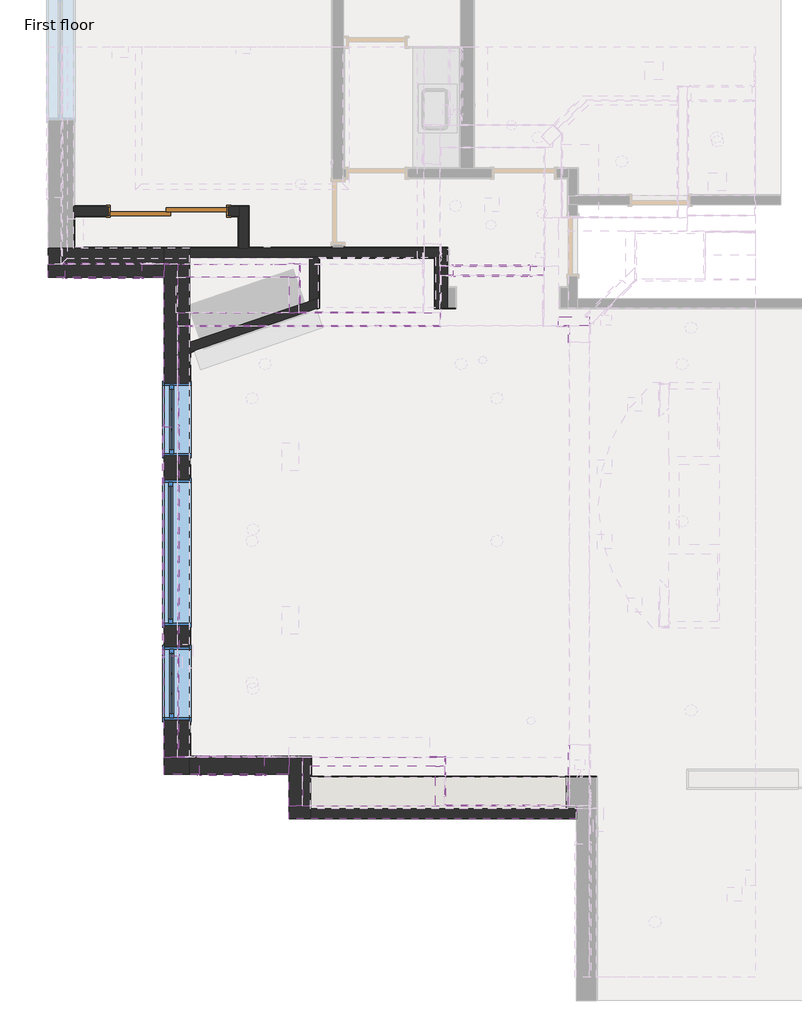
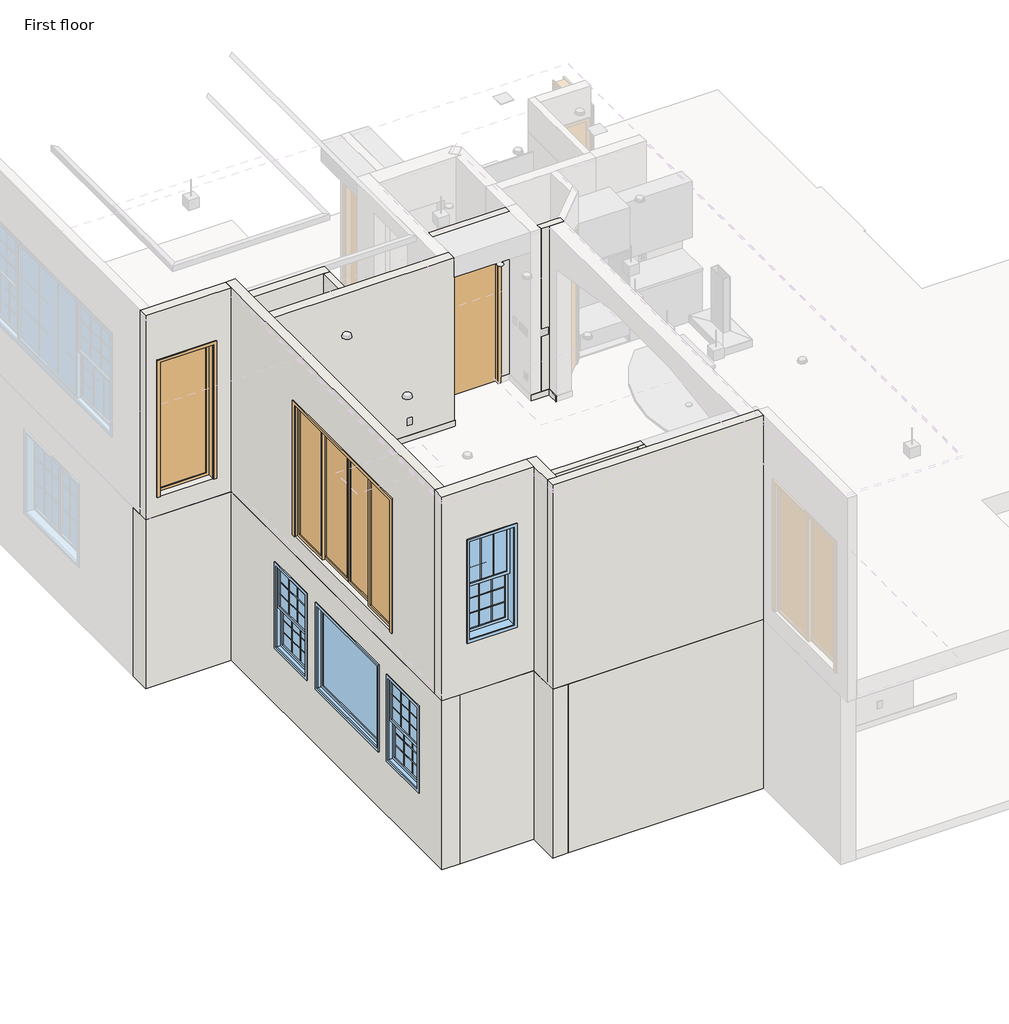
# One storey, part 1 of 14: 61 walls, 4 doors, 4 windows.
"""IFC4 building model written with IfcOpenShell, lengths in millimetres."""

from ifc_helpers import new_model, si_unit, frame, origin, origin_with_axes, place, context, project, spatial, polyline, outline, extrude, faceted_brep, transform, mapped, element, save
from components import door_a6e0097c, door_41e090a7, door_951bc8e4, door_b97ac930, window_a2dd4ec8, window_e6a79fe6, window_c5c9dc02

model = new_model("IFC4")

# Units and contexts
model_context = context("Model", 3, world=origin())
ifc_project = project(units=[si_unit("LENGTHUNIT", "METRE", prefix="MILLI")], contexts=[model_context])

# Site, building, storey
site = spatial("IfcSite", under=ifc_project)
building = spatial("IfcBuilding", under=site)
storey = spatial("IfcBuildingStorey", under=building, Name="First floor", Elevation=0.0)

# Doors
placement = place(None, origin())
door_shape = door_a6e0097c(model_context)
element("IfcDoor", 1, ObjectType="C_Single Door : 3'-0\" X 8'-0\"", at=placement, inside=storey, context=model_context, shape_type="MappedRepresentation", body=[
    mapped(door_shape, transform((-1066.8, 9544.05, 3251.2), x_axis=(-1.0, 0.0, 0.0), y_axis=(0.0, -1.0, 0.0), z_axis=(0.0, 0.0, 1.0))),
])
door_2_shape = door_41e090a7(model_context)
element("IfcDoor", 2, ObjectType="C_Single Door Glass : 3'-0\" X 8'-0\"", at=placement, inside=storey, context=model_context, shape_type="MappedRepresentation", body=[
    mapped(door_2_shape, transform((-5962.65, 9544.05, 3251.2), x_axis=(1.0, 0.0, 0.0), y_axis=(0.0, 1.0, 0.0), z_axis=(0.0, 0.0, 1.0))),
])
door_3_shape = door_951bc8e4(model_context)
element("IfcDoor", 3, ObjectType="C_Sliding Door Double : 4'-10\" X 8'-0\"", at=placement, inside=storey, context=model_context, shape_type="MappedRepresentation", body=[
    mapped(door_3_shape, transform((-5143.5, 10293.35, 0.0), x_axis=(1.0, 0.0, 0.0), y_axis=(0.0, 1.0, 0.0), z_axis=(0.0, 0.0, 1.0))),
])
door_4_shape = door_b97ac930(model_context)
element("IfcDoor", 4, ObjectType="Double Sliding Door : 9'-4\" X 7'-10\"", at=placement, inside=storey, context=model_context, shape_type="MappedRepresentation", body=[
    mapped(door_4_shape, transform((-5111.75, 6134.1, 3251.2), x_axis=(0.0, -1.0, 0.0), y_axis=(1.0, 0.0, 0.0), z_axis=(0.0, 0.0, 1.0))),
])

# Walls
element("IfcWall", 5, ObjectType="Wall Border_T1", at=placement, inside=storey, context=model_context, shape_type="Brep", body=[
    faceted_brep([(-3352.8000001, 3174.9999999, 0.0), (-3352.8000001, 3174.9999999, 101.6), (-3340.1000001, 3174.9999999, 101.6), (254.0000001, 3174.9999999, 101.6), (254.0000001, 3174.9999999, 0.0), (-3340.1000001, 3174.9999999, 0.0), (-3352.8000001, 3162.2999999, 101.6), (-3352.8000001, 3162.2999999, 0.0), (254.0000001, 3162.2999999, 0.0), (254.0000001, 3162.2999999, 101.6)], [[[0, 1, 2, 3, 4, 5]], [[6, 7, 8, 9]], [[7, 0, 5, 4, 8]], [[1, 0, 7, 6]], [[1, 6, 9, 3, 2]], [[4, 3, 9, 8]]]),
])
element("IfcWall", 6, ObjectType="Wall Border_T1", at=placement, inside=storey, context=model_context, shape_type="SweptSolid", body=[
    extrude(outline(polyline([(-3340.1000001, 3174.9999999), (-3352.8000001, 3174.9999999), (-3352.8000001, 3416.2999999), (-3340.1000001, 3416.2999999), (-3340.1000001, 3174.9999999)])), origin_with_axes(), (0.0, 0.0, 1.0), 101.6),
])
element("IfcWall", 7, ObjectType="Wall Border_T1", at=placement, inside=storey, context=model_context, shape_type="Brep", body=[
    faceted_brep([(-3340.1000001, 3428.9999999, 0.0), (-4864.1000001, 3428.9999999, 0.0), (-4864.1000001, 3428.9999999, 101.6), (-3340.1000001, 3428.9999999, 101.6), (-3340.1000001, 3416.2999999, 0.0), (-3340.1000001, 3416.2999999, 101.6), (-3352.8000001, 3416.2999999, 101.6), (-4864.1000001, 3416.2999999, 101.6), (-4864.1000001, 3416.2999999, 0.0), (-3352.8000001, 3416.2999999, 0.0)], [[[0, 1, 2, 3]], [[4, 5, 6, 7, 8, 9]], [[1, 0, 4, 9, 8]], [[2, 1, 8, 7]], [[3, 2, 7, 6, 5]], [[0, 3, 5, 4]]]),
])
element("IfcWall", 8, ObjectType="Wall Border_T1", at=placement, inside=storey, context=model_context, shape_type="SweptSolid", body=[
    extrude(outline(polyline([(-1790.7, 9702.8), (-3238.5, 9702.8), (-3238.5, 9715.5), (-1790.7, 9715.5), (-1790.7, 9702.8)])), origin_with_axes(), (0.0, 0.0, 1.0), 101.6),
])
element("IfcWall", 9, ObjectType="Wall Border_T1", at=placement, inside=storey, context=model_context, shape_type="Brep", body=[
    faceted_brep([(-1790.7, 9715.5, 0.0), (-1790.7, 9702.8, 0.0), (-1790.7, 9067.8, 0.0), (-1790.7, 9067.8, 101.6), (-1790.7, 9702.8, 101.6), (-1790.7, 9715.5, 101.6), (-1778.0, 9715.5, 0.0), (-1778.0, 9715.5, 101.6), (-1778.0, 9080.5, 101.6), (-1778.0, 9067.8, 101.6), (-1778.0, 9067.8, 0.0), (-1778.0, 9080.5, 0.0)], [[[0, 1, 2, 3, 4, 5]], [[6, 7, 8, 9, 10, 11]], [[2, 1, 0, 6, 11, 10]], [[3, 2, 10, 9]], [[5, 4, 3, 9, 8, 7]], [[0, 5, 7, 6]]]),
])
element("IfcWall", 10, ObjectType="Wall Border_T1", at=placement, inside=storey, context=model_context, shape_type="SweptSolid", body=[
    extrude(outline(polyline([(-1524.0, 9067.8), (-1778.0, 9067.8), (-1778.0, 9080.5), (-1524.0, 9080.5), (-1524.0, 9067.8)])), origin_with_axes(), (0.0, 0.0, 1.0), 101.6),
])
element("IfcWall", 11, ObjectType="Wall Border_T1", at=placement, inside=storey, context=model_context, shape_type="SweptSolid", body=[
    extrude(outline(polyline([(-2921.0, 9842.5), (-1625.6, 9842.5), (-1625.6, 9829.8), (-2921.0, 9829.8), (-2921.0, 9842.5)])), origin_with_axes(), (0.0, 0.0, 1.0), 101.6),
])
element("IfcWall", 12, ObjectType="Wall Border_T1", at=placement, inside=storey, context=model_context, shape_type="Brep", body=[
    faceted_brep([(-2921.0, 9829.8, 0.0), (-2921.0, 9842.5, 0.0), (-2921.0, 9855.2, 0.0), (-2921.0, 9855.2, 101.6), (-2921.0, 9842.5, 101.6), (-2921.0, 9829.8, 101.6), (-2933.7, 9829.8, 0.0), (-2933.7, 9829.8, 101.6), (-2933.7, 9855.2, 101.6), (-2933.7, 9855.2, 0.0)], [[[0, 1, 2, 3, 4, 5]], [[6, 7, 8, 9]], [[2, 1, 0, 6, 9]], [[3, 2, 9, 8]], [[5, 4, 3, 8, 7]], [[0, 5, 7, 6]]]),
])
element("IfcWall", 13, ObjectType="Wall Border_T1", at=placement, inside=storey, context=model_context, shape_type="Brep", body=[
    faceted_brep([(-3251.2, 9715.5, 0.0), (-3251.2, 9080.5, 0.0), (-3251.2, 9080.5, 101.6), (-3251.2, 9715.5, 101.6), (-3238.5, 9715.5, 0.0), (-3238.5, 9715.5, 101.6), (-3238.5, 9702.8, 101.6), (-3238.5, 9084.865625, 101.6), (-3238.5, 9084.865625, 0.0), (-3238.5, 9702.8, 0.0)], [[[0, 1, 2, 3]], [[4, 5, 6, 7, 8, 9]], [[1, 0, 4, 9, 8]], [[3, 2, 7, 6, 5]], [[0, 3, 5, 4]], [[2, 1, 8, 7]]]),
])
element("IfcWall", 14, ObjectType="Wall Border_T1", at=placement, inside=storey, context=model_context, shape_type="Brep", body=[
    faceted_brep([(-3238.5, 9084.865625, 0.0), (-3251.2, 9080.5, 0.0), (-3281.2137633, 9070.1827689, 0.0), (-3281.2137633, 9070.1827689, 101.6), (-3251.2, 9080.5, 101.6), (-3238.5, 9084.865625, 101.6), (-3238.5, 9071.4362288, 0.0), (-3238.5, 9071.4362288, 101.6), (-3277.0852503, 9058.172549, 101.6), (-3277.0852503, 9058.172549, 0.0)], [[[0, 1, 2, 3, 4, 5]], [[6, 7, 8, 9]], [[2, 1, 0, 6, 9]], [[3, 2, 9, 8]], [[5, 4, 3, 8, 7]], [[0, 5, 7, 6]]]),
])
element("IfcWall", 15, ObjectType="Wall Border_T1", at=placement, inside=storey, context=model_context, shape_type="Brep", body=[
    faceted_brep([(-4818.5218992, 8541.7330972, 0.0), (-4876.8, 8521.7, 0.0), (-4876.8, 8521.7, 101.6), (-4818.5218992, 8541.7330972, 101.6), (-4814.3933861, 8529.7228773, 0.0), (-4814.3933861, 8529.7228773, 101.6), (-4864.1, 8512.6362288, 101.6), (-4876.8, 8508.2706038, 101.6), (-4876.8, 8508.2706038, 0.0), (-4864.1, 8512.6362288, 0.0)], [[[0, 1, 2, 3]], [[4, 5, 6, 7, 8, 9]], [[1, 0, 4, 9, 8]], [[3, 2, 7, 6, 5]], [[0, 3, 5, 4]], [[2, 1, 8, 7]]]),
])
element("IfcWall", 16, ObjectType="Wall Border_T1", at=placement, inside=storey, context=model_context, shape_type="Brep", body=[
    faceted_brep([(-4876.8, 3416.3, 0.0), (-4876.8, 3416.3, 101.6), (-4876.8, 8508.2706038, 101.6), (-4876.8, 8508.2706038, 0.0), (-4864.1, 3416.3, 101.6), (-4864.1, 3416.3, 0.0), (-4864.1, 3428.9999999, 0.0), (-4864.1, 8512.6362288, 0.0), (-4864.1, 8512.6362288, 101.6), (-4864.1, 3428.9999999, 101.6)], [[[0, 1, 2, 3]], [[4, 5, 6, 7, 8, 9]], [[5, 0, 3, 7, 6]], [[1, 4, 9, 8, 2]], [[1, 0, 5, 4]], [[3, 2, 8, 7]]]),
])
element("IfcWall", 17, ObjectType="Wall Border_T1", at=placement, inside=storey, context=model_context, shape_type="Brep", body=[
    faceted_brep([(-4254.5, 9829.8, 0.0), (-4254.5, 9829.8, 101.6), (-6324.6, 9829.8, 101.6), (-6324.6, 9829.8, 0.0), (-4254.5, 9842.5, 101.6), (-4254.5, 9842.5, 0.0), (-4267.2, 9842.5, 0.0), (-6324.6, 9842.5, 0.0), (-6324.6, 9842.5, 101.6), (-4267.2, 9842.5, 101.6)], [[[0, 1, 2, 3]], [[4, 5, 6, 7, 8, 9]], [[5, 0, 3, 7, 6]], [[1, 4, 9, 8, 2]], [[1, 0, 5, 4]], [[3, 2, 8, 7]]]),
])
element("IfcWall", 18, ObjectType="Wall Border_T1", at=placement, inside=storey, context=model_context, shape_type="SweptSolid", body=[
    extrude(outline(polyline([(-4267.2, 10223.5), (-4254.5, 10223.5), (-4254.5, 9842.5), (-4267.2, 9842.5), (-4267.2, 10223.5)])), origin_with_axes(), (0.0, 0.0, 1.0), 101.6),
])
element("IfcWall", 19, ObjectType="Wall Border_T1", at=placement, inside=storey, context=model_context, shape_type="Brep", body=[
    faceted_brep([(-4349.75, 10223.5, 0.0), (-4267.2, 10223.5, 0.0), (-4254.5, 10223.5, 0.0), (-4254.5, 10223.5, 101.6), (-4267.2, 10223.5, 101.6), (-4349.75, 10223.5, 101.6), (-4349.75, 10236.2, 0.0), (-4349.75, 10236.2, 101.6), (-4254.5, 10236.2, 101.6), (-4254.5, 10236.2, 0.0)], [[[0, 1, 2, 3, 4, 5]], [[6, 7, 8, 9]], [[2, 1, 0, 6, 9]], [[5, 4, 3, 8, 7]], [[0, 5, 7, 6]], [[3, 2, 9, 8]]]),
])
element("IfcWall", 20, ObjectType="Wall Border_T1", at=placement, inside=storey, context=model_context, shape_type="SweptSolid", body=[
    extrude(outline(polyline([(-6324.6, 10236.2), (-5937.25, 10236.2), (-5937.25, 10223.5), (-6324.6, 10223.5), (-6324.6, 10236.2)])), origin_with_axes(), (0.0, 0.0, 1.0), 101.6),
])
element("IfcWall", 21, ObjectType="Wall Border_T1", at=placement, inside=storey, context=model_context, shape_type="SweptSolid", body=[
    extrude(outline(polyline([(-5930.9, 10350.5), (-6324.6, 10350.5), (-6324.6, 10363.2), (-5930.9, 10363.2), (-5930.9, 10350.5)])), origin_with_axes(), (0.0, 0.0, 1.0), 101.6),
])
element("IfcWall", 22, ObjectType="Wall Border_T1", at=placement, inside=storey, context=model_context, shape_type="Brep", body=[
    faceted_brep([(-6337.3, 10236.2, 0.0), (-6337.3, 9829.8, 0.0), (-6337.3, 9829.8, 101.6), (-6337.3, 10236.2, 101.6), (-6324.6, 10236.2, 0.0), (-6324.6, 10236.2, 101.6), (-6324.6, 10223.5, 101.6), (-6324.6, 9842.5, 101.6), (-6324.6, 9829.8, 101.6), (-6324.6, 9829.8, 0.0), (-6324.6, 9842.5, 0.0), (-6324.6, 10223.5, 0.0)], [[[0, 1, 2, 3]], [[4, 5, 6, 7, 8, 9, 10, 11]], [[1, 0, 4, 11, 10, 9]], [[2, 1, 9, 8]], [[3, 2, 8, 7, 6, 5]], [[0, 3, 5, 4]]]),
])
element("IfcWall", 23, ObjectType="Wall Border_T1", at=placement, inside=storey, context=model_context, shape_type="SweptSolid", body=[
    extrude(outline(polyline([(-3086.1, 9855.2), (-3073.4, 9855.2), (-3073.4, 9842.5), (-3086.1, 9842.5), (-3086.1, 9855.2)])), origin_with_axes(), (0.0, 0.0, 1.0), 101.6),
])
element("IfcWall", 24, ObjectType="Wall Border_T1", at=placement, inside=storey, context=model_context, shape_type="Brep", body=[
    faceted_brep([(-3073.4, 9842.5, 101.6), (-3073.4, 9842.5, 0.0), (-3086.1, 9842.5, 0.0), (-4127.5, 9842.5, 0.0), (-4127.5, 9842.5, 101.6), (-3086.1, 9842.5, 101.6), (-3073.4, 9829.8, 0.0), (-3073.4, 9829.8, 101.6), (-4127.5, 9829.8, 101.6), (-4127.5, 9829.8, 0.0)], [[[0, 1, 2, 3, 4, 5]], [[6, 7, 8, 9]], [[1, 6, 9, 3, 2]], [[7, 0, 5, 4, 8]], [[1, 0, 7, 6]], [[4, 3, 9, 8]]]),
])
element("IfcWall", 25, ObjectType="Wall Border_T1", at=placement, inside=storey, context=model_context, shape_type="Brep", body=[
    faceted_brep([(-4127.5, 9829.8, 0.0), (-4127.5, 9842.5, 0.0), (-4127.5, 10350.5, 0.0), (-4127.5, 10350.5, 101.6), (-4127.5, 9842.5, 101.6), (-4127.5, 9829.8, 101.6), (-4140.2, 9829.8, 0.0), (-4140.2, 9829.8, 101.6), (-4140.2, 10350.5, 101.6), (-4140.2, 10350.5, 0.0)], [[[0, 1, 2, 3, 4, 5]], [[6, 7, 8, 9]], [[2, 1, 0, 6, 9]], [[3, 2, 9, 8]], [[5, 4, 3, 8, 7]], [[0, 5, 7, 6]]]),
])
element("IfcWall", 26, ObjectType="Wall Border_T1", at=placement, inside=storey, context=model_context, shape_type="Brep", body=[
    faceted_brep([(-4127.5, 10363.2, 0.0), (-4356.1, 10363.2, 0.0), (-4356.1, 10363.2, 101.6), (-4127.5, 10363.2, 101.6), (-4127.5, 10350.5, 0.0), (-4127.5, 10350.5, 101.6), (-4140.2, 10350.5, 101.6), (-4356.1, 10350.5, 101.6), (-4356.1, 10350.5, 0.0), (-4140.2, 10350.5, 0.0)], [[[0, 1, 2, 3]], [[4, 5, 6, 7, 8, 9]], [[1, 0, 4, 9, 8]], [[2, 1, 8, 7]], [[3, 2, 7, 6, 5]], [[0, 3, 5, 4]]]),
])
element("IfcWall", 27, ObjectType="Wall Border_T1", at=placement, inside=storey, context=model_context, shape_type="Brep", body=[
    faceted_brep([(-1936.75, 9029.7, 3251.2), (-3486.15, 9029.7, 3251.2), (-3498.85, 9029.7, 3251.2), (-3498.85, 9029.7, 3352.8), (-3486.15, 9029.7, 3352.8), (-1936.75, 9029.7, 3352.8), (-1936.75, 9017.0, 3251.2), (-1936.75, 9017.0, 3352.8), (-3498.85, 9017.0, 3352.8), (-3498.85, 9017.0, 3251.2)], [[[0, 1, 2, 3, 4, 5]], [[6, 7, 8, 9]], [[2, 1, 0, 6, 9]], [[5, 4, 3, 8, 7]], [[0, 5, 7, 6]], [[3, 2, 9, 8]]]),
])
element("IfcWall", 28, ObjectType="Wall Border_T1", at=placement, inside=storey, context=model_context, shape_type="SweptSolid", body=[
    extrude(outline(polyline([(-3486.15, 9626.6), (-3486.15, 9029.7), (-3498.85, 9029.7), (-3498.85, 9626.6), (-3486.15, 9626.6)])), frame((0.0, 0.0, 3251.2), z_axis=(0.0, 0.0, 1.0), x_axis=(1.0, 0.0, 0.0)), (0.0, 0.0, 1.0), 101.6),
])
element("IfcWall", 29, ObjectType="Wall Border_T1", at=placement, inside=storey, context=model_context, shape_type="Brep", body=[
    faceted_brep([(-3486.15, 9639.3, 3251.2), (-3625.8466234, 9639.3, 3251.2), (-3625.8466234, 9639.3, 3352.8), (-3486.15, 9639.3, 3352.8), (-3486.15, 9626.6, 3251.2), (-3486.15, 9626.6, 3352.8), (-3498.85, 9626.6, 3352.8), (-3625.8466234, 9626.6, 3352.8), (-3625.8466234, 9626.6, 3251.2), (-3498.85, 9626.6, 3251.2)], [[[0, 1, 2, 3]], [[4, 5, 6, 7, 8, 9]], [[1, 0, 4, 9, 8]], [[2, 1, 8, 7]], [[3, 2, 7, 6, 5]], [[0, 3, 5, 4]]]),
])
element("IfcWall", 30, ObjectType="Wall Border_T1", at=placement, inside=storey, context=model_context, shape_type="SweptSolid", body=[
    extrude(outline(polyline([(-6483.35, 9639.3), (-6470.65, 9639.3), (-6470.65, 9626.6), (-6483.35, 9626.6), (-6483.35, 9639.3)])), frame((0.0, 0.0, 3251.2), z_axis=(0.0, 0.0, 1.0), x_axis=(1.0, 0.0, 0.0)), (0.0, 0.0, 1.0), 101.6),
])
element("IfcWall", 31, ObjectType="Wall Border_T1", at=placement, inside=storey, context=model_context, shape_type="SweptSolid", body=[
    extrude(outline(polyline([(-5454.65, 9639.3), (-5048.2466234, 9639.3), (-5048.2466234, 9626.6), (-5454.65, 9626.6), (-5454.65, 9639.3)])), frame((0.0, 0.0, 3251.2), z_axis=(0.0, 0.0, 1.0), x_axis=(1.0, 0.0, 0.0)), (0.0, 0.0, 1.0), 101.6),
])
element("IfcWall", 32, ObjectType="Wall Border_T1", at=placement, inside=storey, context=model_context, shape_type="SweptSolid", body=[
    extrude(outline(polyline([(-101.6, 2819.4), (-101.6, 3568.7), (-88.9, 3568.7), (-88.9, 2819.4), (-101.6, 2819.4)])), frame((0.0, 0.0, 3251.2), z_axis=(0.0, 0.0, 1.0), x_axis=(1.0, 0.0, 0.0)), (0.0, 0.0, 1.0), 101.6),
])
element("IfcWall", 33, ObjectType="Wall Border_T1", at=placement, inside=storey, context=model_context, shape_type="Brep", body=[
    faceted_brep([(-88.9, 2819.4, 3251.2), (-101.6, 2819.4, 3251.2), (-1651.0, 2819.4, 3251.2), (-1663.7, 2819.4, 3251.2), (-1663.7, 2819.4, 3352.8), (-1651.0, 2819.4, 3352.8), (-101.6, 2819.4, 3352.8), (-88.9, 2819.4, 3352.8), (-88.9, 2806.7, 3251.2), (-88.9, 2806.7, 3352.8), (-1663.7, 2806.7, 3352.8), (-1663.7, 2806.7, 3251.2)], [[[0, 1, 2, 3, 4, 5, 6, 7]], [[8, 9, 10, 11]], [[3, 2, 1, 0, 8, 11]], [[7, 6, 5, 4, 10, 9]], [[4, 3, 11, 10]], [[0, 7, 9, 8]]]),
])
element("IfcWall", 34, ObjectType="Wall Border_T1", at=placement, inside=storey, context=model_context, shape_type="Brep", body=[
    faceted_brep([(-1651.0, 2819.4, 3251.2), (-1651.0, 3429.0, 3251.2), (-1651.0, 3429.0, 3352.8), (-1651.0, 2819.4, 3352.8), (-1663.7, 2819.4, 3251.2), (-1663.7, 2819.4, 3352.8), (-1663.7, 3416.3, 3352.8), (-1663.7, 3429.0, 3352.8), (-1663.7, 3429.0, 3251.2), (-1663.7, 3416.3, 3251.2)], [[[0, 1, 2, 3]], [[4, 5, 6, 7, 8, 9]], [[1, 0, 4, 9, 8]], [[3, 2, 7, 6, 5]], [[0, 3, 5, 4]], [[2, 1, 8, 7]]]),
])
element("IfcWall", 35, ObjectType="Wall Border_T1", at=placement, inside=storey, context=model_context, shape_type="SweptSolid", body=[
    extrude(outline(polyline([(-1854.2, 3429.0), (-1663.7, 3429.0), (-1663.7, 3416.3), (-1854.2, 3416.3), (-1854.2, 3429.0)])), frame((0.0, 0.0, 3251.2), z_axis=(0.0, 0.0, 1.0), x_axis=(1.0, 0.0, 0.0)), (0.0, 0.0, 1.0), 101.6),
])
element("IfcWall", 36, ObjectType="Wall Border_T1", at=placement, inside=storey, context=model_context, shape_type="SweptSolid", body=[
    extrude(outline(polyline([(-5016.5, 3429.0), (-3619.5, 3429.0), (-3619.5, 3416.3), (-5016.5, 3416.3), (-5016.5, 3429.0)])), frame((0.0, 0.0, 3251.2), z_axis=(0.0, 0.0, 1.0), x_axis=(1.0, 0.0, 0.0)), (0.0, 0.0, 1.0), 101.6),
])
element("IfcWall", 37, ObjectType="Wall Border_T1", at=placement, inside=storey, context=model_context, shape_type="Brep", body=[
    faceted_brep([(-5016.5, 3416.3, 3251.2), (-5016.5, 3429.0, 3251.2), (-5016.5, 4660.9, 3251.2), (-5016.5, 4660.9, 3352.8), (-5016.5, 3429.0, 3352.8), (-5016.5, 3416.3, 3352.8), (-5029.2, 3416.3, 3251.2), (-5029.2, 3416.3, 3352.8), (-5029.2, 4660.9, 3352.8), (-5029.2, 4660.9, 3251.2)], [[[0, 1, 2, 3, 4, 5]], [[6, 7, 8, 9]], [[2, 1, 0, 6, 9]], [[3, 2, 9, 8]], [[5, 4, 3, 8, 7]], [[0, 5, 7, 6]]]),
])
element("IfcWall", 38, ObjectType="Wall Border_T1", at=placement, inside=storey, context=model_context, shape_type="Brep", body=[
    faceted_brep([(-5016.5, 8839.2, 3251.2), (-1708.15, 8839.2, 3251.2), (-1708.15, 8839.2, 3352.8), (-5016.5, 8839.2, 3352.8), (-5016.5, 8851.9, 3251.2), (-5016.5, 8851.9, 3352.8), (-1720.85, 8851.9, 3352.8), (-1708.15, 8851.9, 3352.8), (-1708.15, 8851.9, 3251.2), (-1720.85, 8851.9, 3251.2)], [[[0, 1, 2, 3]], [[4, 5, 6, 7, 8, 9]], [[1, 0, 4, 9, 8]], [[3, 2, 7, 6, 5]], [[0, 3, 5, 4]], [[2, 1, 8, 7]]]),
])
element("IfcWall", 39, ObjectType="Wall Border_T1", at=placement, inside=storey, context=model_context, shape_type="Brep", body=[
    faceted_brep([(-406.4, 8839.2, 3251.2), (-101.6, 8839.2, 3251.2), (-88.9, 8839.2, 3251.2), (-88.9, 8839.2, 3352.8), (-101.6, 8839.2, 3352.8), (-406.4, 8839.2, 3352.8), (-406.4, 8851.9, 3251.2), (-406.4, 8851.9, 3352.8), (-88.9, 8851.9, 3352.8), (-88.9, 8851.9, 3251.2)], [[[0, 1, 2, 3, 4, 5]], [[6, 7, 8, 9]], [[2, 1, 0, 6, 9]], [[5, 4, 3, 8, 7]], [[0, 5, 7, 6]], [[3, 2, 9, 8]]]),
])
element("IfcWall", 40, ObjectType="Wall Border_T1", at=placement, inside=storey, context=model_context, shape_type="Brep", body=[
    faceted_brep([(-101.6, 8839.2, 3251.2), (-101.6, 8636.0, 3251.2), (-101.6, 8636.0, 3352.8), (-101.6, 8839.2, 3352.8), (-88.9, 8839.2, 3251.2), (-88.9, 8839.2, 3352.8), (-88.9, 8648.7, 3352.8), (-88.9, 8636.0, 3352.8), (-88.9, 8636.0, 3251.2), (-88.9, 8648.7, 3251.2)], [[[0, 1, 2, 3]], [[4, 5, 6, 7, 8, 9]], [[1, 0, 4, 9, 8]], [[3, 2, 7, 6, 5]], [[0, 3, 5, 4]], [[2, 1, 8, 7]]]),
])
element("IfcWall", 41, ObjectType="Wall Border_T1", at=placement, inside=storey, context=model_context, shape_type="Brep", body=[
    faceted_brep([(-5016.5, 7607.3, 3251.2), (-5016.5, 8839.2, 3251.2), (-5016.5, 8851.9, 3251.2), (-5016.5, 8851.9, 3352.8), (-5016.5, 8839.2, 3352.8), (-5016.5, 7607.3, 3352.8), (-5029.2, 7607.3, 3251.2), (-5029.2, 7607.3, 3352.8), (-5029.2, 8851.9, 3352.8), (-5029.2, 8851.9, 3251.2)], [[[0, 1, 2, 3, 4, 5]], [[6, 7, 8, 9]], [[2, 1, 0, 6, 9]], [[5, 4, 3, 8, 7]], [[0, 5, 7, 6]], [[3, 2, 9, 8]]]),
])
element("IfcWall", 42, ObjectType="Wall_1' 2 1/2\"", at=placement, inside=storey, context=model_context, shape_type="Brep", body=[
    faceted_brep([(-5194.3, 9829.8, 2908.3), (-5194.3, 9829.8, -152.4), (-6337.3, 9829.8, -152.4), (-6661.15, 9829.8, -152.4), (-6661.15, 9829.8, 2908.3), (-6337.3, 9829.8, 2908.3), (-5194.3, 9461.5, -152.4), (-5194.3, 9461.5, 2908.3), (-6661.15, 9461.5, 2908.3), (-6661.15, 9461.5, -152.4)], [[[0, 1, 2, 3, 4, 5]], [[6, 7, 8, 9]], [[3, 2, 1, 6, 9]], [[0, 5, 4, 8, 7]], [[4, 3, 9, 8]], [[0, 7, 6, 1]]]),
])
element("IfcWall", 43, ObjectType="Wall_1' 3 1/2\"", at=placement, inside=storey, context=model_context, shape_type="SweptSolid", body=[
    extrude(outline(polyline([(-3352.8, 3162.3), (-127.0, 3162.3), (-127.0, 2768.6), (-3352.8, 2768.6), (-3352.8, 3162.3)])), origin_with_axes(), (0.0, 0.0, 1.0), 762.0),
])
element("IfcWall", 44, ObjectType="Wall_1'1/2\"", at=placement, inside=storey, context=model_context, shape_type="Brep", body=[
    faceted_brep([(-5194.3, 9829.8, -152.4), (-5194.3, 9461.5, -152.4), (-5194.3, 3200.4, -152.4), (-5194.3, 3200.4, 2908.3), (-5194.3, 9461.5, 2908.3), (-5194.3, 9829.8, 2908.3), (-5194.3, 8128.0, 2413.0), (-5194.3, 7213.6, 2413.0), (-5194.3, 7213.6, 889.0), (-5194.3, 8128.0, 889.0), (-5194.3, 4800.6, 2387.6), (-5194.3, 3886.2, 2387.6), (-5194.3, 3886.2, 863.6), (-5194.3, 4800.6, 863.6), (-5194.3, 5080.0, 2413.0), (-5194.3, 5080.0, 889.0), (-5194.3, 6908.8, 889.0), (-5194.3, 6908.8, 2413.0), (-4876.8, 3200.4, -152.4), (-4876.8, 3416.3, -152.4), (-4876.8, 9829.8, -152.4), (-4876.8, 9829.8, 0.0), (-4876.8, 9829.8, 2565.4), (-4876.8, 9829.8, 2908.3), (-4876.8, 3416.3, 2908.3), (-4876.8, 3200.4, 2908.3), (-4876.8, 7213.6, 2413.0), (-4876.8, 8128.0, 2413.0), (-4876.8, 8128.0, 889.0), (-4876.8, 7213.6, 889.0), (-4876.8, 3886.2, 2387.6), (-4876.8, 4800.6, 2387.6), (-4876.8, 4800.6, 863.6), (-4876.8, 3886.2, 863.6), (-4876.8, 5080.0, 2413.0), (-4876.8, 6908.8, 2413.0), (-4876.8, 6908.8, 889.0), (-4876.8, 5080.0, 889.0)], [[[0, 1, 2, 3, 4, 5], [6, 7, 8, 9], [10, 11, 12, 13], [14, 15, 16, 17]], [[18, 19, 20, 21, 22, 23, 24, 25], [26, 27, 28, 29], [30, 31, 32, 33], [34, 35, 36, 37]], [[2, 1, 0, 20, 19, 18]], [[5, 4, 3, 25, 24, 23]], [[3, 2, 18, 25]], [[5, 23, 22, 21, 20, 0]], [[6, 27, 26, 7]], [[7, 26, 29, 8]], [[8, 29, 28, 9]], [[27, 6, 9, 28]], [[11, 10, 31, 30]], [[12, 11, 30, 33]], [[13, 12, 33, 32]], [[10, 13, 32, 31]], [[15, 14, 34, 37]], [[16, 15, 37, 36]], [[17, 16, 36, 35]], [[14, 17, 35, 34]]]),
])
element("IfcWall", 45, ObjectType="Wall_10.5\"", at=placement, inside=storey, context=model_context, shape_type="Brep", body=[
    faceted_brep([(-3352.8, 2641.6, -152.4), (-3352.8, 2768.6, -152.4), (-3352.8, 3416.3, -152.4), (-3352.8, 3416.3, 2908.3), (-3352.8, 2768.6, 2908.3), (-3352.8, 2641.6, 2908.3), (-3619.5, 2641.6, -152.4), (-3619.5, 2641.6, 2908.3), (-3619.5, 3200.4, 2908.3), (-3619.5, 3416.3, 2908.3), (-3619.5, 3416.3, -152.4), (-3619.5, 3200.4, -152.4)], [[[0, 1, 2, 3, 4, 5]], [[6, 7, 8, 9, 10, 11]], [[2, 1, 0, 6, 11, 10]], [[5, 4, 3, 9, 8, 7]], [[0, 5, 7, 6]], [[3, 2, 10, 9]]]),
])
element("IfcWall", 46, ObjectType="Wall_4.5\"", at=placement, inside=storey, context=model_context, shape_type="Brep", body=[
    faceted_brep([(-3454.4, 3302.0, 3251.2), (-1778.0, 3302.0, 3251.2), (-1663.7, 3302.0, 3251.2), (-1663.7, 3302.0, 6261.1), (-1778.0, 3302.0, 6261.1), (-3454.4, 3302.0, 6261.1), (-2247.9, 3302.0, 4292.6), (-2247.9, 3302.0, 3530.6), (-3238.5, 3302.0, 3530.6), (-3238.5, 3302.0, 4292.6), (-1663.7, 3416.3, 3251.2), (-3454.4, 3416.3, 3251.2), (-3454.4, 3416.3, 6261.1), (-1663.7, 3416.3, 6261.1), (-2247.9, 3416.3, 3530.6), (-2247.9, 3416.3, 4292.6), (-3238.5, 3416.3, 4292.6), (-3238.5, 3416.3, 3530.6)], [[[0, 1, 2, 3, 4, 5], [6, 7, 8, 9]], [[10, 11, 12, 13], [14, 15, 16, 17]], [[2, 1, 0, 11, 10]], [[11, 0, 5, 12]], [[2, 10, 13, 3]], [[5, 4, 3, 13, 12]], [[14, 7, 6, 15]], [[15, 6, 9, 16]], [[16, 9, 8, 17]], [[7, 14, 17, 8]]]),
])
element("IfcWall", 47, ObjectType="Wall_4.5\"", at=placement, inside=storey, context=model_context, shape_type="Brep", body=[
    faceted_brep([(-1778.0, 3302.0, 3251.2), (-1778.0, 2806.7, 3251.2), (-1778.0, 2806.7, 6261.1), (-1778.0, 3302.0, 6261.1), (-1663.7, 2806.7, 3251.2), (-1663.7, 2819.4, 3251.2), (-1663.7, 3302.0, 3251.2), (-1663.7, 3302.0, 6261.1), (-1663.7, 2806.7, 6261.1), (-1663.7, 2806.7, 3352.8)], [[[0, 1, 2, 3]], [[4, 5, 6, 7, 8, 9]], [[1, 0, 6, 5, 4]], [[6, 0, 3, 7]], [[1, 4, 9, 8, 2]], [[3, 2, 8, 7]]]),
])
element("IfcWall", 48, ObjectType="Wall_4.5\"", at=placement, inside=storey, context=model_context, shape_type="SweptSolid", body=[
    extrude(outline(polyline([(-3613.15, 9017.0), (-3613.15, 9461.5), (-3498.85, 9461.5), (-3498.85, 9017.0), (-3613.15, 9017.0)])), frame((0.0, 0.0, 3251.2), z_axis=(0.0, 0.0, 1.0), x_axis=(1.0, 0.0, 0.0)), (0.0, 0.0, 1.0), 3048.0),
])
element("IfcWall", 49, ObjectType="Wall_4.5\"", at=placement, inside=storey, context=model_context, shape_type="Brep", body=[
    faceted_brep([(-228.6, 8851.9, 3251.2), (-88.9, 8851.9, 3251.2), (165.1, 8851.9, 3251.2), (165.1, 8851.9, 6299.2), (-88.9, 8851.9, 6299.2), (-228.6, 8851.9, 6299.2), (-228.6, 8966.2, 6299.2), (117.7553898, 8966.2, 6299.2), (165.1, 8966.2, 6299.2), (165.1, 8966.2, 5715.0), (117.7553898, 8966.2, 5715.0), (117.7553898, 8966.2, 3251.2), (-228.6, 8966.2, 3251.2), (111.2458704, 8959.6904806, 3251.2), (165.1, 8905.836351, 3251.2), (165.1, 8905.836351, 5715.0), (111.2458704, 8959.6904806, 5715.0)], [[[0, 1, 2, 3, 4, 5]], [[6, 7, 8, 9, 10, 11, 12]], [[2, 1, 0, 12, 11, 13, 14]], [[5, 4, 3, 8, 7, 6]], [[0, 5, 6, 12]], [[3, 2, 14, 15, 9, 8]], [[16, 13, 11, 10]], [[16, 10, 9, 15]], [[13, 16, 15, 14]]]),
])
element("IfcWall", 50, ObjectType="Wall_4.5\"", at=placement, inside=storey, context=model_context, shape_type="Brep", body=[
    faceted_brep([(-1720.85, 9486.9, 3251.2), (-1708.15, 9486.9, 3251.2), (-1549.4, 9486.9, 3251.2), (-1549.4, 9486.9, 5715.0), (-584.2, 9486.9, 5715.0), (-584.2, 9486.9, 3251.2), (-406.4, 9486.9, 3251.2), (-406.4, 9486.9, 6299.2), (-1720.85, 9486.9, 6299.2), (-1720.85, 9486.9, 3352.8), (-1549.4, 9601.2, 5715.0), (-1549.4, 9601.2, 3251.2), (-1720.85, 9601.2, 3251.2), (-1720.85, 9601.2, 6299.2), (-406.4, 9601.2, 6299.2), (-406.4, 9601.2, 3251.2), (-584.2, 9601.2, 3251.2), (-584.2, 9601.2, 5715.0)], [[[0, 1, 2, 3, 4, 5, 6, 7, 8, 9]], [[10, 11, 12, 13, 14, 15, 16, 17]], [[16, 15, 6, 5]], [[12, 11, 2, 1, 0]], [[8, 7, 14, 13]], [[7, 6, 15, 14]], [[8, 13, 12, 0, 9]], [[3, 2, 11, 10]], [[4, 3, 10, 17]], [[5, 4, 17, 16]]]),
])
element("IfcWall", 51, ObjectType="Wall_4.5\"", at=placement, inside=storey, context=model_context, shape_type="Brep", body=[
    faceted_brep([(-3251.2, 9201.3645656, 0.0), (-3365.5, 9162.0739406, 0.0), (-4876.8, 8642.5645656, 0.0), (-4876.8, 8642.5645656, 2565.4), (-3365.5, 9162.0739406, 2565.4), (-3251.2, 9201.3645656, 2565.4), (-4525.4092581, 8763.3551331, 1060.45), (-4525.4092581, 8763.3551331, 279.4), (-3648.6632119, 9064.7365865, 279.4), (-3648.6632119, 9064.7365865, 1060.45), (-4876.8, 8521.7, 0.0), (-4864.1, 8526.065625, 0.0), (-3251.2, 9080.5, 0.0), (-3251.2, 9080.5, 2565.4), (-4876.8, 8521.7, 2565.4), (-4876.8, 8521.7, 101.6), (-4488.2526406, 8655.2631548, 279.4), (-4488.2526406, 8655.2631548, 1060.45), (-3611.5065943, 8956.6446082, 1060.45), (-3611.5065943, 8956.6446082, 279.4)], [[[0, 1, 2, 3, 4, 5], [6, 7, 8, 9]], [[10, 11, 12, 13, 14, 15], [16, 17, 18, 19]], [[2, 1, 0, 12, 11, 10]], [[5, 4, 3, 14, 13]], [[0, 5, 13, 12]], [[2, 10, 15, 14, 3]], [[16, 7, 6, 17]], [[17, 6, 9, 18]], [[18, 9, 8, 19]], [[7, 16, 19, 8]]]),
])
element("IfcWall", 52, ObjectType="Wall_4.5\"", at=placement, inside=storey, context=model_context, shape_type="SweptSolid", body=[
    extrude(outline(polyline([(-3251.2, 9715.5), (-3251.2, 9201.3645656), (-3365.5, 9162.0739406), (-3365.5, 9715.5), (-3251.2, 9715.5)])), origin_with_axes(), (0.0, 0.0, 1.0), 2565.4),
])
element("IfcWall", 53, ObjectType="Wall_4.5\"", at=placement, inside=storey, context=model_context, shape_type="Brep", body=[
    faceted_brep([(-4876.8, 9715.5, 0.0), (-3365.5, 9715.5, 0.0), (-3251.2, 9715.5, 0.0), (-3238.5, 9715.5, 0.0), (-1778.0, 9715.5, 0.0), (-1625.6, 9715.5, 0.0), (-1625.6, 9715.5, 2565.4), (-1778.0, 9715.5, 2565.4), (-3251.2, 9715.5, 2565.4), (-3365.5, 9715.5, 2565.4), (-4876.8, 9715.5, 2565.4), (-4876.8, 9829.8, 0.0), (-4876.8, 9829.8, 2565.4), (-4254.5, 9829.8, 2565.4), (-4140.2, 9829.8, 2565.4), (-3073.4, 9829.8, 2565.4), (-2933.7, 9829.8, 2565.4), (-1625.6, 9829.8, 2565.4), (-1625.6, 9829.8, 0.0), (-2933.7, 9829.8, 0.0), (-3073.4, 9829.8, 0.0), (-4140.2, 9829.8, 0.0), (-4254.5, 9829.8, 0.0)], [[[0, 1, 2, 3, 4, 5, 6, 7, 8, 9, 10]], [[11, 12, 13, 14, 15, 16, 17, 18, 19, 20, 21, 22]], [[5, 4, 3, 2, 1, 0, 11, 22, 21, 20, 19, 18]], [[10, 9, 8, 7, 6, 17, 16, 15, 14, 13, 12]], [[0, 10, 12, 11]], [[6, 5, 18, 17]]]),
])
element("IfcWall", 54, ObjectType="Wall_4.5\"", at=placement, inside=storey, context=model_context, shape_type="Brep", body=[
    faceted_brep([(-4140.2, 9829.8, 2565.4), (-4140.2, 9829.8, 0.0), (-4140.2, 10350.5, 0.0), (-4140.2, 10350.5, 2565.4), (-4254.5, 9829.8, 0.0), (-4254.5, 9829.8, 101.6), (-4254.5, 9829.8, 2565.4), (-4254.5, 10236.2, 2565.4), (-4254.5, 10350.5, 2565.4), (-4254.5, 10350.5, 0.0), (-4254.5, 10236.2, 0.0), (-4254.5, 10223.5, 0.0), (-4254.5, 9842.5, 0.0)], [[[0, 1, 2, 3]], [[4, 5, 6, 7, 8, 9, 10, 11, 12]], [[2, 1, 4, 12, 11, 10, 9]], [[0, 3, 8, 7, 6]], [[0, 6, 5, 4, 1]], [[2, 9, 8, 3]]]),
])
element("IfcWall", 55, ObjectType="Wall_4.5\"", at=placement, inside=storey, context=model_context, shape_type="Brep", body=[
    faceted_brep([(-4254.5, 10350.5, 0.0), (-4381.5, 10350.5, 0.0), (-4381.5, 10350.5, 2463.8), (-5905.5, 10350.5, 2463.8), (-5905.5, 10350.5, 0.0), (-6337.3, 10350.5, 0.0), (-6337.3, 10350.5, 2565.4), (-4254.5, 10350.5, 2565.4), (-4381.5, 10236.2, 2463.8), (-4381.5, 10236.2, 0.0), (-4254.5, 10236.2, 0.0), (-4254.5, 10236.2, 2565.4), (-6337.3, 10236.2, 2565.4), (-6337.3, 10236.2, 101.6), (-6337.3, 10236.2, 0.0), (-6324.6, 10236.2, 0.0), (-5905.5, 10236.2, 0.0), (-5905.5, 10236.2, 2463.8)], [[[0, 1, 2, 3, 4, 5, 6, 7]], [[8, 9, 10, 11, 12, 13, 14, 15, 16, 17]], [[10, 9, 1, 0]], [[16, 15, 14, 5, 4]], [[7, 6, 12, 11]], [[6, 5, 14, 13, 12]], [[7, 11, 10, 0]], [[3, 2, 8, 17]], [[4, 3, 17, 16]], [[2, 1, 9, 8]]]),
])
element("IfcWall", 56, ObjectType="Wall_5\"", at=placement, inside=storey, context=model_context, shape_type="SweptSolid", body=[
    extrude(outline(polyline([(-3352.8, 2768.6), (0.0176056, 2768.6), (0.0176056, 2641.6), (-3352.8, 2641.6), (-3352.8, 2768.6)])), frame((0.0, 0.0, -152.4), z_axis=(0.0, 0.0, 1.0), x_axis=(1.0, 0.0, 0.0)), (0.0, 0.0, 1.0), 3060.7),
])
element("IfcWall", 57, ObjectType="Wall_6\"", at=placement, inside=storey, context=model_context, shape_type="Brep", body=[
    faceted_brep([(-1778.0, 9715.5, 0.0), (-1778.0, 9080.5, 0.0), (-1778.0, 9080.5, 2565.4), (-1778.0, 9715.5, 2565.4), (-1625.6, 9715.5, 0.0), (-1625.6, 9715.5, 2565.4), (-1625.6, 9334.5, 2565.4), (-1625.6, 9080.5, 2565.4), (-1625.6, 9080.5, 0.0), (-1625.6, 9334.5, 0.0)], [[[0, 1, 2, 3]], [[4, 5, 6, 7, 8, 9]], [[1, 0, 4, 9, 8]], [[3, 2, 7, 6, 5]], [[0, 3, 5, 4]], [[2, 1, 8, 7]]]),
])
element("IfcWall", 58, ObjectType="Wall_6.5\"", at=placement, inside=storey, context=model_context, shape_type="Brep", body=[
    faceted_brep([(0.0, 2806.7, 6604.0), (0.0, 2806.7, 2908.3), (-3454.4, 2806.7, 2908.3), (-3619.5, 2806.7, 2908.3), (-3619.5, 2806.7, 6604.0), (-3454.4, 2806.7, 6604.0), (0.0, 2641.6, 2908.3), (0.0, 2641.6, 6604.0), (-3619.5, 2641.6, 6604.0), (-3619.5, 2641.6, 2908.3)], [[[0, 1, 2, 3, 4, 5]], [[6, 7, 8, 9]], [[3, 2, 1, 6, 9]], [[0, 5, 4, 8, 7]], [[4, 3, 9, 8]], [[0, 7, 6, 1]]]),
])
element("IfcWall", 59, ObjectType="Wall_6.5\"", at=placement, inside=storey, context=model_context, shape_type="Brep", body=[
    faceted_brep([(-3454.4, 2806.7, 2908.3), (-3454.4, 3416.3, 2908.3), (-3454.4, 3416.3, 3251.2), (-3454.4, 3416.3, 6299.2), (-3454.4, 3416.3, 6604.0), (-3454.4, 2806.7, 6604.0), (-3619.5, 2806.7, 2908.3), (-3619.5, 2806.7, 6604.0), (-3619.5, 3200.4, 6604.0), (-3619.5, 3416.3, 6604.0), (-3619.5, 3416.3, 2908.3), (-3619.5, 3200.4, 2908.3)], [[[0, 1, 2, 3, 4, 5]], [[6, 7, 8, 9, 10, 11]], [[1, 0, 6, 11, 10]], [[5, 4, 9, 8, 7]], [[0, 5, 7, 6]], [[1, 10, 9, 4, 3, 2]]]),
])
element("IfcWall", 60, ObjectType="Wall_6.5\"", at=placement, inside=storey, context=model_context, shape_type="Brep", body=[
    faceted_brep([(-5029.2, 3416.3, 2908.3), (-5029.2, 9626.6, 2908.3), (-5029.2, 9626.6, 3251.2), (-5029.2, 9626.6, 6299.2), (-5029.2, 9626.6, 6604.0), (-5029.2, 3416.3, 6604.0), (-5029.2, 9017.0, 3251.2), (-5029.2, 9017.0, 4343.4), (-5029.2, 9461.5, 4343.4), (-5029.2, 9461.5, 3251.2), (-5029.2, 7581.9, 5664.2), (-5029.2, 7581.9, 3251.2), (-5029.2, 4686.3, 3251.2), (-5029.2, 4686.3, 5664.2), (-5194.3, 9626.6, 2908.3), (-5194.3, 9461.5, 2908.3), (-5194.3, 3416.3, 2908.3), (-5194.3, 3416.3, 6604.0), (-5194.3, 9461.5, 6604.0), (-5194.3, 9626.6, 6604.0), (-5194.3, 7581.9, 3251.2), (-5194.3, 7581.9, 5664.2), (-5194.3, 4686.3, 5664.2), (-5194.3, 4686.3, 3251.2), (-5048.2466234, 9017.0, 3251.2), (-5048.2466234, 9017.0, 4343.4), (-5048.2466234, 9461.5, 4343.4), (-5048.2466234, 9461.5, 3251.2)], [[[0, 1, 2, 3, 4, 5], [6, 7, 8, 9], [10, 11, 12, 13]], [[14, 15, 16, 17, 18, 19], [20, 21, 22, 23]], [[1, 0, 16, 15, 14]], [[5, 4, 19, 18, 17]], [[0, 5, 17, 16]], [[1, 14, 19, 4, 3, 2]], [[24, 25, 7, 6]], [[26, 27, 9, 8]], [[27, 24, 6, 9]], [[25, 24, 27, 26]], [[25, 26, 8, 7]], [[11, 10, 21, 20]], [[12, 11, 20, 23]], [[13, 12, 23, 22]], [[10, 13, 22, 21]]]),
])
element("IfcWall", 61, ObjectType="Wall_6.5\"", at=placement, inside=storey, context=model_context, shape_type="Brep", body=[
    faceted_brep([(-5194.3, 9626.6, 2908.3), (-6496.05, 9626.6, 2908.3), (-6661.15, 9626.6, 2908.3), (-6661.15, 9626.6, 6604.0), (-6496.05, 9626.6, 6604.0), (-5194.3, 9626.6, 6604.0), (-6445.25, 9626.6, 5715.0), (-6445.25, 9626.6, 3251.2), (-5480.05, 9626.6, 3251.2), (-5480.05, 9626.6, 5715.0), (-6661.15, 9461.5, 2908.3), (-5194.3, 9461.5, 2908.3), (-5194.3, 9461.5, 6604.0), (-6661.15, 9461.5, 6604.0), (-6445.25, 9461.5, 3251.2), (-6445.25, 9461.5, 5715.0), (-5480.05, 9461.5, 5715.0), (-5480.05, 9461.5, 3251.2)], [[[0, 1, 2, 3, 4, 5], [6, 7, 8, 9]], [[10, 11, 12, 13], [14, 15, 16, 17]], [[2, 1, 0, 11, 10]], [[5, 4, 3, 13, 12]], [[3, 2, 10, 13]], [[5, 12, 11, 0]], [[6, 15, 14, 7]], [[7, 14, 17, 8]], [[8, 17, 16, 9]], [[15, 6, 9, 16]]]),
])
element("IfcWall", 62, ObjectType="Wall_6.5\"", at=placement, inside=storey, context=model_context, shape_type="Brep", body=[
    faceted_brep([(-5029.2, 9461.5, 3251.2), (-3613.15, 9461.5, 3251.2), (-3498.85, 9461.5, 3251.2), (-3498.85, 9461.5, 6299.2), (-3613.15, 9461.5, 6299.2), (-5029.2, 9461.5, 6299.2), (-5029.2, 9461.5, 4343.4), (-3854.4466234, 9461.5, 4019.55), (-3854.4466234, 9461.5, 3295.65), (-4819.6466234, 9461.5, 3295.65), (-4819.6466234, 9461.5, 4019.55), (-3498.85, 9626.6, 3251.2), (-5029.2, 9626.6, 3251.2), (-5029.2, 9626.6, 6299.2), (-3498.85, 9626.6, 6299.2), (-3803.65, 9626.6, 5943.6), (-4972.05, 9626.6, 5943.6), (-4972.05, 9626.6, 4622.8), (-3803.65, 9626.6, 4622.8), (-3854.4466234, 9626.6, 3295.65), (-3854.4466234, 9626.6, 4019.55), (-4819.6466234, 9626.6, 4019.55), (-4819.6466234, 9626.6, 3295.65), (-3803.65, 9474.2, 5943.6), (-3803.65, 9474.2, 4622.8), (-4972.05, 9474.2, 4622.8), (-4972.05, 9474.2, 5943.6)], [[[0, 1, 2, 3, 4, 5, 6], [7, 8, 9, 10]], [[11, 12, 13, 14], [15, 16, 17, 18], [19, 20, 21, 22]], [[2, 1, 0, 12, 11]], [[5, 4, 3, 14, 13]], [[0, 6, 5, 13, 12]], [[3, 2, 11, 14]], [[23, 24, 25, 26]], [[23, 26, 16, 15]], [[26, 25, 17, 16]], [[25, 24, 18, 17]], [[24, 23, 15, 18]], [[19, 8, 7, 20]], [[20, 7, 10, 21]], [[21, 10, 9, 22]], [[8, 19, 22, 9]]]),
])
element("IfcWall", 63, ObjectType="Wall_6.5\"", at=placement, inside=storey, context=model_context, shape_type="Brep", body=[
    faceted_brep([(-5029.2, 8851.9, 6299.2), (-5029.2, 8851.9, 3352.8), (-5029.2, 8851.9, 3251.2), (-5016.5, 8851.9, 3251.2), (-1720.85, 8851.9, 3251.2), (-1720.85, 8851.9, 6299.2), (-5029.2, 9017.0, 3251.2), (-5029.2, 9017.0, 4343.4), (-5029.2, 9017.0, 6299.2), (-3613.15, 9017.0, 6299.2), (-3498.85, 9017.0, 6299.2), (-1924.05, 9017.0, 6299.2), (-1720.85, 9017.0, 6299.2), (-1720.85, 9017.0, 3251.2), (-1924.05, 9017.0, 3251.2), (-3498.85, 9017.0, 3251.2), (-3613.15, 9017.0, 3251.2)], [[[0, 1, 2, 3, 4, 5]], [[6, 7, 8, 9, 10, 11, 12, 13, 14, 15, 16]], [[4, 3, 2, 6, 16, 15, 14, 13]], [[0, 5, 12, 11, 10, 9, 8]], [[5, 4, 13, 12]], [[0, 8, 7, 6, 2, 1]]]),
])
element("IfcWall", 64, ObjectType="Wall_8.5\"", at=placement, inside=storey, context=model_context, shape_type="Brep", body=[
    faceted_brep([(-3619.5, 3416.3, 6604.0), (-3619.5, 3416.3, 2908.3), (-5029.2, 3416.3, 2908.3), (-5194.3, 3416.3, 2908.3), (-5194.3, 3416.3, 6604.0), (-5029.2, 3416.3, 6604.0), (-3937.0, 3416.3, 5664.2), (-4749.8, 3416.3, 5664.2), (-4749.8, 3416.3, 3835.4), (-3937.0, 3416.3, 3835.4), (-3619.5, 3200.4, 2908.3), (-3619.5, 3200.4, 6604.0), (-5194.3, 3200.4, 6604.0), (-5194.3, 3200.4, 2908.3), (-3937.0, 3200.4, 5664.2), (-3937.0, 3200.4, 3835.4), (-4749.8, 3200.4, 3835.4), (-4749.8, 3200.4, 5664.2)], [[[0, 1, 2, 3, 4, 5], [6, 7, 8, 9]], [[10, 11, 12, 13], [14, 15, 16, 17]], [[3, 2, 1, 10, 13]], [[0, 5, 4, 12, 11]], [[4, 3, 13, 12]], [[0, 11, 10, 1]], [[7, 6, 14, 17]], [[8, 7, 17, 16]], [[9, 8, 16, 15]], [[6, 9, 15, 14]]]),
])
element("IfcWall", 65, ObjectType="Wall_8.5\"", at=placement, inside=storey, context=model_context, shape_type="Brep", body=[
    faceted_brep([(-3619.5, 3416.3, -152.4), (-4876.8, 3416.3, -152.4), (-4876.8, 3416.3, 0.0), (-4876.8, 3416.3, 101.6), (-4876.8, 3416.3, 2908.3), (-3619.5, 3416.3, 2908.3), (-3619.5, 3200.4, -152.4), (-3619.5, 3200.4, 2908.3), (-4876.8, 3200.4, 2908.3), (-4876.8, 3200.4, -152.4)], [[[0, 1, 2, 3, 4, 5]], [[6, 7, 8, 9]], [[1, 0, 6, 9]], [[5, 4, 8, 7]], [[0, 5, 7, 6]], [[1, 9, 8, 4, 3, 2]]]),
])

# Windows
window_shape = window_a2dd4ec8(model_context)
element("IfcWindow", 66, ObjectType="C_Window Guilotine : 2'-10\" X 4'-10\"", at=placement, inside=storey, context=model_context, shape_type="MappedRepresentation", body=[
    mapped(window_shape, transform((-5035.55, 4343.4, 76.2), x_axis=(0.0, -1.0, 0.0), y_axis=(1.0, 0.0, 0.0), z_axis=(0.0, 0.0, 1.0))),
])
element("IfcWindow", 67, ObjectType="C_Window Guilotine : 2'-10\" X 4'-10\"", at=placement, inside=storey, context=model_context, shape_type="MappedRepresentation", body=[
    mapped(window_shape, transform((-5035.55, 7670.8, 101.6), x_axis=(0.0, -1.0, 0.0), y_axis=(1.0, 0.0, 0.0), z_axis=(0.0, 0.0, 1.0))),
])
window_2_shape = window_e6a79fe6(model_context)
element("IfcWindow", 68, ObjectType="C_Window Guilotine : 2'-6\" X 5'-10\"", at=placement, inside=storey, context=model_context, shape_type="MappedRepresentation", body=[
    mapped(window_2_shape, transform((-4343.4, 3308.35, 3048.0), x_axis=(-1.0, 0.0, 0.0), y_axis=(0.0, -1.0, 0.0), z_axis=(0.0, 0.0, 1.0))),
])
window_3_shape = window_c5c9dc02(model_context)
element("IfcWindow", 69, ObjectType="C_Single Window : 5'-10\" X 4'-10\"", at=placement, inside=storey, context=model_context, shape_type="MappedRepresentation", body=[
    mapped(window_3_shape, transform((-5035.55, 5994.4, 101.6), x_axis=(0.0, 1.0, 0.0), y_axis=(-1.0, 0.0, 0.0), z_axis=(0.0, 0.0, 1.0))),
])

save(model, "model.ifc")
